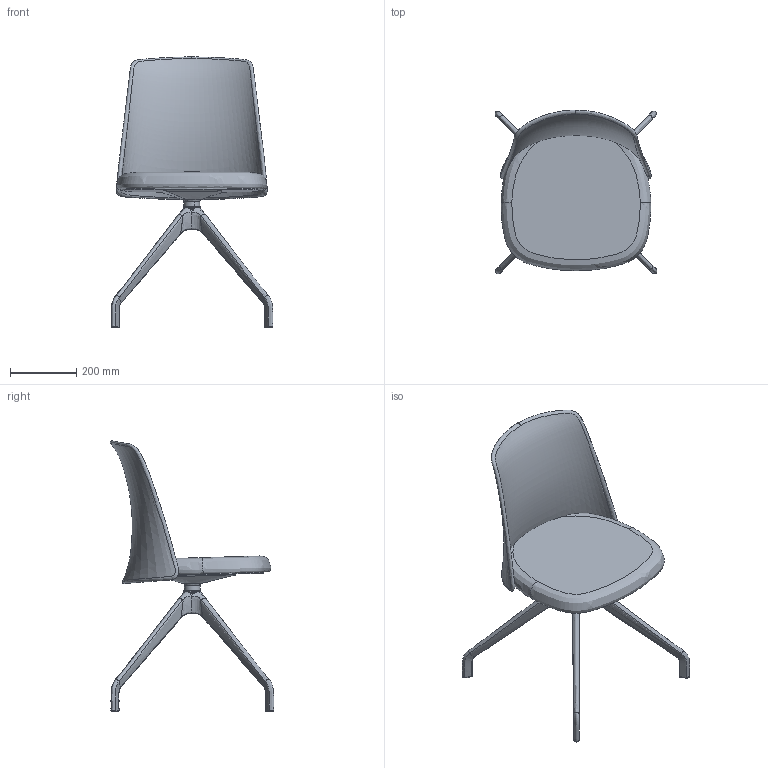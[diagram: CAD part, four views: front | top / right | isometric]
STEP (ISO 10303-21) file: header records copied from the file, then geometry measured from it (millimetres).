
FILE_DESCRIPTION(/* description */ (''),/* implementation_level */ '2;1');
FILE_NAME(/* name */ 'MELODY~1',/* time_stamp */ '2019-07-03T08:10:21+02:00',/* author */ (''),/* organization */ (''),/* preprocessor_version */ 'ST-DEVELOPER v16.5',/* originating_system */ '',/* authorisation */ '');
FILE_SCHEMA (('AUTOMOTIVE_DESIGN'));
Length unit declared in the file: millimetre
Products named in the file (1): Document
Bounding box: 488.4 x 493.72 x 816.05 mm (x, y, z)
Volume: 3401635.9 mm3; surface area: 1621536.3 mm2
Topology: 3 solids, 29 shells, 122 faces, 328 edges, 237 vertices
Faces by surface type: bspline 109, plane 13
Entity records: 39658 total; most frequent: CARTESIAN_POINT 37491, ORIENTED_EDGE 499, EDGE_CURVE 320, B_SPLINE_CURVE_WITH_KNOTS 277, VERTEX_POINT 222, ADVANCED_FACE 122, FACE_OUTER_BOUND 122, EDGE_LOOP 122
